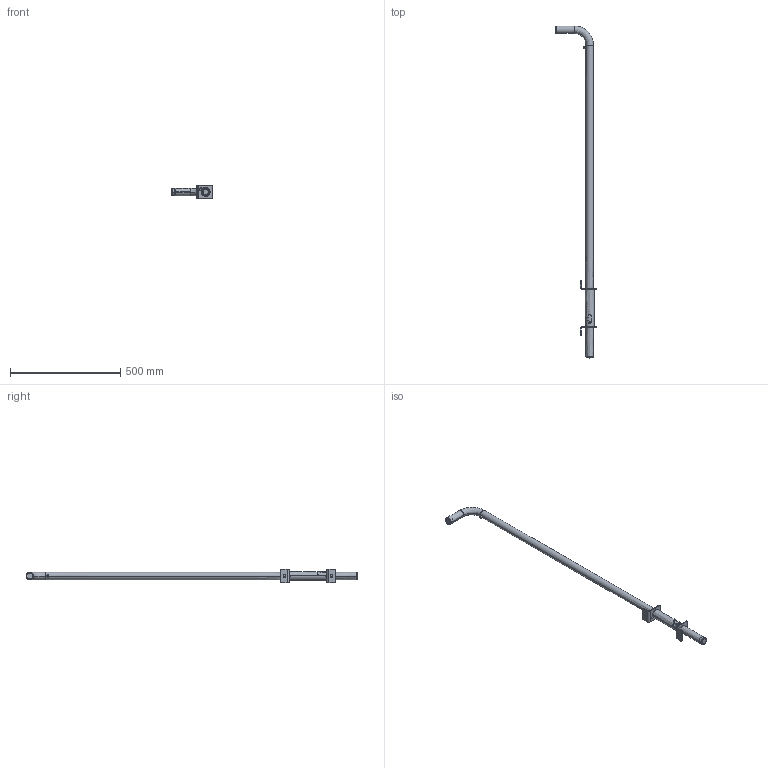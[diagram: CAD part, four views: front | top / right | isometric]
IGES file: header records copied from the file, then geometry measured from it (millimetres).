
Start section:  PTC IGES file: 51277787.igs
Global section: file name: 51277787.igs; native system: Creo Parametric by Parametric Technology Corporation; preprocessor: 2017170; author: set; organization: Unknown; date: 20181105.131413; units: millimetre
Bounding box: 186 x 1505 x 60 mm (x, y, z)
Surface area: 371929.9 mm2 (no closed solid volume)
Topology: 0 solids, 0 shells, 116 faces, 556 edges, 556 vertices
Faces by surface type: bspline 60, revolution 56
